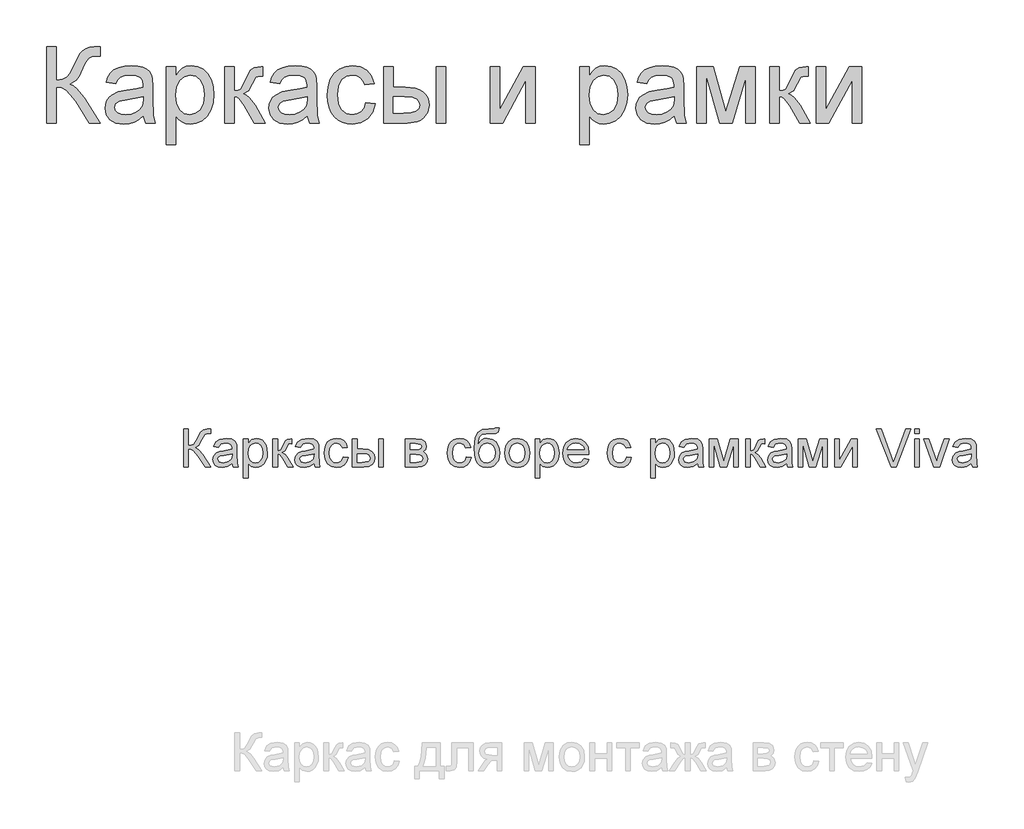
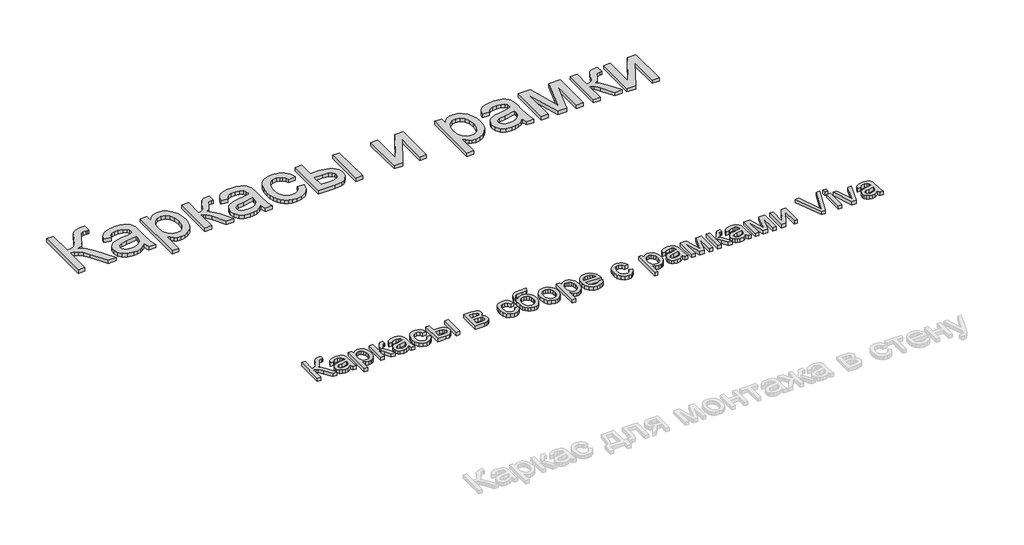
# One storey, part 47 of 48: 2 proxies.
"""IFC4 building model written with IfcOpenShell, lengths in millimetres."""

import ifcopenshell
import ifcopenshell.guid

model = None  # the IFC model being written
_history = None  # IfcOwnerHistory: only IFC2X3 demands one
_inside = {}  # id of a spatial element -> (the spatial element, [elements in it])
_under = {}  # id of a project, library or spatial element -> (it, [spatial elements below it])
_declared = {}  # id of a project -> (the project, [libraries it declares])
_typed = {}  # id of a type object -> (the type object, [elements of that type])
_made_of = {}  # id of a material, layer set ... -> (it, [elements and type objects made of it])


def new_model(schema):
    """Start an empty IFC model of exactly this schema.

    Asked for "IFC4X3", IfcOpenShell would pick the latest addendum, in which some entities
    have other attributes; the version numbers below select the first issue.
    IFC2X3 requires an IfcOwnerHistory on every rooted entity: one is made here for all.
    """
    global model, _history
    if schema == "IFC4X3":
        model = ifcopenshell.file(schema_version=(4, 3, 0, 0))
    else:
        model = ifcopenshell.file(schema=schema)
    _inside.clear()
    _under.clear()
    _declared.clear()
    _typed.clear()
    _made_of.clear()
    _history = None
    if model.schema == "IFC2X3":
        org = make("IfcOrganization", Name="unknown")
        user = make(
            "IfcPersonAndOrganization",
            ThePerson=make("IfcPerson", FamilyName="unknown"),
            TheOrganization=org,
        )
        app = make(
            "IfcApplication",
            ApplicationDeveloper=org,
            Version="unknown",
            ApplicationFullName="unknown",
            ApplicationIdentifier="unknown",
        )
        _history = make(
            "IfcOwnerHistory",
            OwningUser=user,
            OwningApplication=app,
            ChangeAction="ADDED",
            CreationDate=0,
        )
    return model


def make(cls, **values):
    """One entity of the class cls with the attributes given. An attribute that is None is left unset."""
    return model.create_entity(
        cls, **{name: value for name, value in values.items() if value is not None}
    )


def rooted(cls, **values):
    """An entity with a GlobalId (a new one), such as an element, a storey or a relation."""
    return make(cls, GlobalId=ifcopenshell.guid.new(), OwnerHistory=_history, **values)


def si_unit(unit_type, name, prefix=None):
    """IfcSIUnit, for example si_unit("LENGTHUNIT", "METRE", prefix="MILLI")."""
    return make("IfcSIUnit", UnitType=unit_type, Prefix=prefix, Name=name)


def assignment(units):
    """IfcUnitAssignment: the units of a project."""
    return None if units is None else make("IfcUnitAssignment", Units=units)


def point(xyz):
    """IfcCartesianPoint."""
    return None if xyz is None else make("IfcCartesianPoint", Coordinates=xyz)


def direction(xyz):
    """IfcDirection."""
    return None if xyz is None else make("IfcDirection", DirectionRatios=xyz)


def frame(location, z_axis=None, x_axis=None):
    """IfcAxis2Placement3D, a coordinate frame: its origin and axes. An axis left out is left unset."""
    return make(
        "IfcAxis2Placement3D",
        Location=point(location),
        Axis=direction(z_axis),
        RefDirection=direction(x_axis),
    )


def origin():
    """The frame at (0, 0, 0) with its axes left unset."""
    return frame((0.0, 0.0, 0.0))


def origin_with_axes():
    """The frame at (0, 0, 0) with the z axis (0, 0, 1) and the x axis (1, 0, 0) written out."""
    return frame((0.0, 0.0, 0.0), z_axis=(0.0, 0.0, 1.0), x_axis=(1.0, 0.0, 0.0))


def place(relative_to, where):
    """IfcLocalPlacement: puts the frame where relative to a parent placement (None: the world)."""
    return make(
        "IfcLocalPlacement", PlacementRelTo=relative_to, RelativePlacement=where
    )


def context(
    kind, dimensions, precision=None, world=None, true_north=None, identifier=None
):
    """IfcGeometricRepresentationContext, for example the 3D "Model" context."""
    return make(
        "IfcGeometricRepresentationContext",
        ContextIdentifier=identifier,
        ContextType=kind,
        CoordinateSpaceDimension=dimensions,
        Precision=precision,
        WorldCoordinateSystem=world,
        TrueNorth=true_north,
    )


def project(units=None, contexts=None):
    """IfcProject with its units and contexts."""
    return rooted(
        "IfcProject",
        Name="project",
        RepresentationContexts=contexts,
        UnitsInContext=assignment(units),
    )


def spatial(cls, under=None, at=None, **own):
    """A site, building, storey or space (cls), placed at a placement, below another one or the project."""
    s = rooted(cls, ObjectPlacement=at, **own)
    if under is not None:
        _under.setdefault(under.id(), (under, []))[1].append(s)
    return s


def polyline(points):
    """IfcPolyline through the points."""
    return make("IfcPolyline", Points=[point(p) for p in points])


def outline(outer, holes=None, kind="AREA"):
    """IfcArbitraryClosedProfileDef: a profile drawn as a closed curve; with holes, ...WithVoids."""
    if holes is None:
        return make("IfcArbitraryClosedProfileDef", ProfileType=kind, OuterCurve=outer)
    return make(
        "IfcArbitraryProfileDefWithVoids",
        ProfileType=kind,
        OuterCurve=outer,
        InnerCurves=holes,
    )


def extrude(swept, where, along, depth):
    """IfcExtrudedAreaSolid: the profile swept, set in the frame where, extruded along a direction by depth."""
    return make(
        "IfcExtrudedAreaSolid",
        SweptArea=swept,
        Position=where,
        ExtrudedDirection=direction(along),
        Depth=depth,
    )


def shape(context_of_items, identifier, shape_type, items):
    """IfcShapeRepresentation: the items that make up one representation, for example the "Body"."""
    return make(
        "IfcShapeRepresentation",
        ContextOfItems=context_of_items,
        RepresentationIdentifier=identifier,
        RepresentationType=shape_type,
        Items=items,
    )


def made_of(thing, what):
    """Note that an element or type object is made of a material, layer set ...; save() writes the relation."""
    if what is not None:
        _made_of.setdefault(what.id(), (what, []))[1].append(thing)
    return thing


def element(
    cls,
    number,
    at=None,
    inside=None,
    cuts=None,
    type_object=None,
    material=None,
    context=None,
    identifier="Body",
    shape_type=None,
    held_by="IfcProductDefinitionShape",
    body=None,
    shapes=None,
    **own,
):
    """One element of the class cls, such as IfcWall. Its Tag is "e" and its number.

    at: its placement. inside: the storey or other place that contains it. cuts: it is an
    opening in that element (IfcRelVoidsElement). A single representation is given by context,
    identifier, shape_type and body (its items); several are given by shapes. held_by: the class
    of the entity that holds the representations. save() writes the other relations.
    """
    e = rooted(cls, Tag="e%d" % number, ObjectPlacement=at, **own)
    if body is not None:
        shapes = [shape(context, identifier, shape_type, body)]
    if shapes is not None:
        e.Representation = make(held_by, Representations=shapes)
    if inside is not None:
        _inside.setdefault(inside.id(), (inside, []))[1].append(e)
    if cuts is not None:
        rooted(
            "IfcRelVoidsElement", RelatingBuildingElement=cuts, RelatedOpeningElement=e
        )
    if type_object is not None:
        _typed.setdefault(type_object.id(), (type_object, []))[1].append(e)
    return made_of(e, material)


def aggregate(whole, parts):
    """IfcRelAggregates: a whole, such as a stair, and the parts it consists of."""
    return rooted("IfcRelAggregates", RelatingObject=whole, RelatedObjects=parts)


def save(model, path):
    """Write the relations noted so far, then the file.

    IfcRelAggregates (storeys below a building ...), IfcRelContainedInSpatialStructure (elements
    in a storey), IfcRelDefinesByType, IfcRelAssociatesMaterial and IfcRelDeclares: one each for
    every whole, place, type object, material and project.
    """
    for whole, parts in _under.values():
        aggregate(whole, parts)
    for where, things in _inside.values():
        rooted(
            "IfcRelContainedInSpatialStructure",
            RelatedElements=things,
            RelatingStructure=where,
        )
    for kind, things in _typed.values():
        rooted("IfcRelDefinesByType", RelatedObjects=things, RelatingType=kind)
    for what, things in _made_of.values():
        rooted("IfcRelAssociatesMaterial", RelatedObjects=things, RelatingMaterial=what)
    for by, libraries in _declared.values():
        rooted("IfcRelDeclares", RelatingContext=by, RelatedDefinitions=libraries)
    model.write(path)


model = new_model("IFC4")

# Units and contexts
model_context = context("Model", 3, world=origin())
ifc_project = project(units=[si_unit("LENGTHUNIT", "METRE", prefix="MILLI")], contexts=[model_context])

# Site, building, storey
site = spatial("IfcSite", under=ifc_project)
building = spatial("IfcBuilding", under=site)
storey = spatial("IfcBuildingStorey", under=building, Name="Этаж 01", Elevation=0.0)

# Proxies
placement = place(None, origin())
element("IfcBuildingElementProxy", 1, Name="150 мм Arial", ObjectType="150 мм Arial", at=placement, inside=storey, context=model_context, shape_type="SweptSolid", body=[
    extrude(outline(polyline([(71432.8605868, 4004.3421474), (71451.6961449, 4004.3421474), (71451.6961449, 3938.4176939), (71464.4478546, 3939.6638941), (71472.7573892, 3943.4024949), (71487.4542749, 3968.6208057), (71497.8469412, 3989.6820499), (71509.6191651, 4000.1115045), (71526.4497663, 4004.3421474), (71538.8106014, 4004.1214182), (71538.8106014, 3985.2858601), (71534.6535348, 3985.3962247), (71530.4964683, 3985.5065892), (71515.7811885, 3980.9816407), (71504.5975758, 3961.5942596), (71491.2618535, 3937.9762355), (71478.257225, 3930.1771372), (71492.7977608, 3921.660669), (71507.1359616, 3903.9103627), (71538.8106014, 3853.6576822), (71516.9584109, 3853.6576822), (71490.1766016, 3896.1112644), (71471.3226494, 3918.2761546), (71462.6176417, 3922.7873076), (71451.6961449, 3924.2910253), (71451.6961449, 3853.6576822), (71432.8605868, 3853.6576822), (71432.8605868, 4004.3421474)])), origin_with_axes(), (0.0, 0.0, 1.0), 20.0),
    extrude(outline(polyline([(71623.5706131, 3867.7843508), (71605.305272, 3855.0188456), (71585.1269446, 3851.3032374), (71569.3861937, 3853.5381205), (71557.7749182, 3860.2427699), (71550.6150149, 3870.4239041), (71548.2283805, 3883.0882418), (71551.833624, 3897.9874626), (71561.3065854, 3908.8031933), (71574.4951549, 3914.9836108), (71590.7923273, 3917.8163021), (71623.4602485, 3924.2910253), (71623.5706131, 3928.48488), (71622.273829, 3936.8909836), (71618.3834769, 3942.3908194), (71609.6830678, 3946.4743096), (71597.561356, 3947.8354729), (71578.5050687, 3944.2118353), (71569.4183834, 3931.3543596), (71550.5828252, 3933.7088043), (71558.7314114, 3952.1029041), (71575.1389484, 3962.8818465), (71599.9893772, 3966.6710311), (71622.816455, 3963.3233049), (71635.7107189, 3954.9172014), (71641.4864662, 3942.133302), (71642.4061712, 3925.6521886), (71642.4061712, 3902.2181055), (71643.3626644, 3869.4950021), (71647.1150608, 3853.6576822), (71628.2795026, 3853.6576822), (71623.5706131, 3867.7843508)]), holes=[polyline([(71623.5706131, 3905.4554671), (71593.1835603, 3899.6797198), (71576.9783584, 3896.6262992), (71569.6391126, 3891.6598923), (71567.0639386, 3884.412617), (71572.674139, 3874.2222857), (71589.1368583, 3870.1387956), (71608.1931457, 3874.64535), (71620.4804043, 3885.5530512), (71623.4602485, 3900.1211782), (71623.5706131, 3905.4554671)])]), origin_with_axes(), (0.0, 0.0, 1.0), 20.0),
    extrude(outline(polyline([(71668.3050637, 3811.2776763), (71668.3050637, 3964.3165863), (71687.1406218, 3964.3165863), (71687.1406218, 3945.8489102), (71700.1636445, 3961.4655009), (71717.7484038, 3966.6710311), (71730.4863179, 3964.8500152), (71741.6239453, 3959.3869676), (71750.6922365, 3950.612982), (71757.2221419, 3938.8591523), (71762.4828545, 3909.8332628), (71760.9975309, 3893.72463), (71756.5415602, 3879.3174513), (71749.2574967, 3867.3428924), (71739.2878947, 3858.5321186), (71727.6766192, 3853.1104577), (71715.4675355, 3851.3032374), (71699.0783926, 3856.1408856), (71687.1406218, 3868.372962), (71687.1406218, 3811.2776763), (71668.3050637, 3811.2776763)]), holes=[polyline([(71687.1406218, 3908.1042175), (71689.1777684, 3891.2184339), (71695.289208, 3879.4094218), (71704.3069154, 3872.4564521), (71715.0628653, 3870.1387956), (71725.9935591, 3872.5392256), (71735.2411927, 3879.7405156), (71741.5457704, 3891.981789), (71743.6472963, 3909.502169), (71741.5963542, 3926.2959821), (71735.4435278, 3938.2705411), (71726.439616, 3945.44424), (71715.8354175, 3947.8354729), (71705.1898322, 3945.2924887), (71695.841031, 3937.6635358), (71689.3157241, 3925.1877376), (71687.1406218, 3908.1042175)])]), origin_with_axes(), (0.0, 0.0, 1.0), 20.0),
    extrude(outline(polyline([(71783.6728574, 3964.3165863), (71802.5084155, 3964.3165863), (71802.5084155, 3917.2276909), (71815.126768, 3920.6122053), (71825.464252, 3940.3306802), (71834.0542966, 3957.3452225), (71841.6326657, 3962.8818465), (71855.4098464, 3964.3165863), (71859.01509, 3964.3165863), (71859.01509, 3945.3706636), (71853.9383185, 3945.4810282), (71844.7412686, 3943.4944654), (71838.2665455, 3931.0968422), (71830.6697823, 3917.6875434), (71820.0195985, 3911.1208498), (71831.9021869, 3903.7908011), (71843.5640462, 3888.3489543), (71863.7239795, 3853.6576822), (71842.3132474, 3853.6576822), (71822.5579843, 3887.6131903), (71812.6251704, 3901.9789822), (71802.5084155, 3905.4554671), (71802.5084155, 3853.6576822), (71783.6728574, 3853.6576822), (71783.6728574, 3964.3165863)])), origin_with_axes(), (0.0, 0.0, 1.0), 20.0),
    extrude(outline(polyline([(71946.1295464, 3867.7843508), (71927.8642054, 3855.0188456), (71907.6858779, 3851.3032374), (71891.9451271, 3853.5381205), (71880.3338516, 3860.2427699), (71873.1739483, 3870.4239041), (71870.7873138, 3883.0882418), (71874.3925574, 3897.9874626), (71883.8655188, 3908.8031933), (71897.0540883, 3914.9836108), (71913.3512607, 3917.8163021), (71946.0191818, 3924.2910253), (71946.1295464, 3928.48488), (71944.8327624, 3936.8909836), (71940.9424103, 3942.3908194), (71932.2420011, 3946.4743096), (71920.1202894, 3947.8354729), (71901.064002, 3944.2118353), (71891.9773168, 3931.3543596), (71873.1417586, 3933.7088043), (71881.2903448, 3952.1029041), (71897.6978818, 3962.8818465), (71922.5483106, 3966.6710311), (71945.3753884, 3963.3233049), (71958.2696523, 3954.9172014), (71964.0453996, 3942.133302), (71964.9651046, 3925.6521886), (71964.9651046, 3902.2181055), (71965.9215978, 3869.4950021), (71969.6739941, 3853.6576822), (71950.838436, 3853.6576822), (71946.1295464, 3867.7843508)]), holes=[polyline([(71946.1295464, 3905.4554671), (71915.7424936, 3899.6797198), (71899.5372918, 3896.6262992), (71892.198046, 3891.6598923), (71889.622872, 3884.412617), (71895.2330724, 3874.2222857), (71911.6957917, 3870.1387956), (71930.752079, 3874.64535), (71943.0393377, 3885.5530512), (71946.0191818, 3900.1211782), (71946.1295464, 3905.4554671)])]), origin_with_axes(), (0.0, 0.0, 1.0), 20.0),
    extrude(outline(polyline([(72061.4973401, 3893.6832433), (72080.3328983, 3891.3287985), (72075.0813828, 3874.5763721), (72065.2129483, 3861.916633), (72051.6564968, 3853.9565863), (72035.3409303, 3851.3032374), (72015.3051571, 3855.00505), (71999.6379826, 3866.1104877), (71989.5258263, 3884.132107), (71986.1551075, 3908.5824641), (71987.5944458, 3925.3440875), (71991.9124607, 3939.8708277), (71999.1781301, 3951.6016649), (72009.4604319, 3959.9755788), (72021.7614861, 3964.997168), (72035.0834129, 3966.6710311), (72050.9989077, 3964.3717686), (72063.7230262, 3957.4739812), (72072.8510982, 3946.3455509), (72077.9784535, 3931.3543596), (72059.1428954, 3928.9999148), (72050.405698, 3943.1081893), (72035.2305657, 3947.8354729), (72023.0582702, 3945.5086193), (72013.3967693, 3938.5280585), (72007.0921916, 3926.5167113), (72004.9906657, 3909.0974989), (72007.0462063, 3891.4437616), (72013.2128283, 3879.3910277), (72022.6995852, 3872.4518536), (72034.7155309, 3870.1387956), (72044.4690023, 3871.5827324), (72052.4658372, 3875.9145429), (72058.2829712, 3883.2445916), (72061.4973401, 3893.6832433)])), origin_with_axes(), (0.0, 0.0, 1.0), 20.0),
    extrude(outline(polyline([(72096.8140117, 3964.3165863), (72115.6495698, 3964.3165863), (72115.6495698, 3924.2910253), (72138.9365001, 3924.2910253), (72159.0642438, 3921.931982), (72173.9772602, 3914.8548521), (72183.2064997, 3903.6298527), (72186.2829129, 3888.8272009), (72183.7031404, 3875.3489243), (72175.9638229, 3863.9767721), (72162.5591227, 3856.2374547), (72142.9832021, 3853.6576822), (72096.8140117, 3853.6576822), (72096.8140117, 3964.3165863)]), holes=[polyline([(72115.6495698, 3872.4932403), (72135.0001628, 3872.4932403), (72159.9793502, 3876.4479718), (72165.5803536, 3881.5109477), (72167.4473547, 3888.7904127), (72161.9107307, 3900.3786956), (72153.0309791, 3904.1862742), (72137.4649721, 3905.4554671), (72115.6495698, 3905.4554671), (72115.6495698, 3872.4932403)])]), origin_with_axes(), (0.0, 0.0, 1.0), 20.0),
    extrude(outline(polyline([(72200.4095815, 3964.3165863), (72219.2451397, 3964.3165863), (72219.2451397, 3853.6576822), (72200.4095815, 3853.6576822), (72200.4095815, 3964.3165863)])), origin_with_axes(), (0.0, 0.0, 1.0), 20.0),
    extrude(outline(polyline([(72306.3595961, 3964.3165863), (72347.8566852, 3964.3165863), (72370.6101866, 3961.7965947), (72383.41248, 3952.5627566), (72388.765163, 3936.4679193), (72385.5278015, 3923.3897144), (72375.7789286, 3914.0639058), (72388.4340692, 3903.8551804), (72393.4740526, 3886.1048742), (72390.2826763, 3871.7482793), (72382.6951101, 3861.6407215), (72370.683763, 3855.653442), (72354.2210437, 3853.6576822), (72306.3595961, 3853.6576822), (72306.3595961, 3964.3165863)]), holes=[polyline([(72325.1951543, 3872.4932403), (72348.2981436, 3872.4932403), (72368.7891707, 3875.8961488), (72373.0290107, 3880.5360605), (72374.6384944, 3887.6499785), (72371.419527, 3896.7182697), (72363.0318175, 3901.9973763), (72346.4587336, 3903.1010223), (72325.1951543, 3903.1010223), (72325.1951543, 3872.4932403)]), polyline([(72325.1951543, 3921.9365805), (72343.8099832, 3921.9365805), (72359.1690565, 3922.8930737), (72366.637061, 3926.7190464), (72369.9296049, 3933.6352279), (72368.4856681, 3939.2546254), (72364.1538576, 3942.869066), (72344.3985944, 3945.4810282), (72325.1951543, 3945.4810282), (72325.1951543, 3921.9365805)])]), origin_with_axes(), (0.0, 0.0, 1.0), 20.0),
    extrude(outline(polyline([(72546.5129626, 3893.6832433), (72565.3485207, 3891.3287985), (72560.0970052, 3874.5763721), (72550.2285707, 3861.916633), (72536.6721192, 3853.9565863), (72520.3565527, 3851.3032374), (72500.3207796, 3855.00505), (72484.6536051, 3866.1104877), (72474.5414487, 3884.132107), (72471.17073, 3908.5824641), (72472.6100683, 3925.3440875), (72476.9280832, 3939.8708277), (72484.1937526, 3951.6016649), (72494.4760544, 3959.9755788), (72506.7771086, 3964.997168), (72520.0990353, 3966.6710311), (72536.0145301, 3964.3717686), (72548.7386486, 3957.4739812), (72557.8667206, 3946.3455509), (72562.994076, 3931.3543596), (72544.1585178, 3928.9999148), (72535.4213204, 3943.1081893), (72520.2461881, 3947.8354729), (72508.0738926, 3945.5086193), (72498.4123917, 3938.5280585), (72492.107814, 3926.5167113), (72490.0062881, 3909.0974989), (72492.0618288, 3891.4437616), (72498.2284507, 3879.3910277), (72507.7152077, 3872.4518536), (72519.7311533, 3870.1387956), (72529.4846247, 3871.5827324), (72537.4814596, 3875.9145429), (72543.2985936, 3883.2445916), (72546.5129626, 3893.6832433)])), origin_with_axes(), (0.0, 0.0, 1.0), 20.0),
    extrude(outline(polyline([(72659.5263115, 4006.6965922), (72676.0074249, 4006.6965922), (72671.1513825, 3991.9997065), (72661.5496625, 3986.6838116), (72638.4834614, 3985.5065892), (72607.4158269, 3981.1655817), (72600.2881132, 3975.5185931), (72595.4964502, 3967.2596423), (72591.4681424, 3942.6483368), (72607.7837089, 3960.6745546), (72617.7027272, 3965.171912), (72628.8081649, 3966.6710311), (72648.4070782, 3962.8588539), (72664.3087774, 3951.4223224), (72674.8485966, 3933.4834766), (72678.3618696, 3910.1643566), (72676.6190287, 3892.1841241), (72671.3905058, 3877.7539529), (72654.8542102, 3858.2010248), (72643.5602329, 3853.0276843), (72628.8081649, 3851.3032374), (72611.8074182, 3853.524325), (72599.0649056, 3860.1875876), (72589.6885132, 3870.3135395), (72582.7861273, 3882.9226949), (72578.5370903, 3901.9100044), (72577.1207446, 3931.1704186), (72580.6937985, 3967.3102261), (72591.4129601, 3989.3509561), (72609.5449439, 4000.5943496), (72635.3564644, 4004.3421474), (72656.3257381, 4004.7652117), (72659.5263115, 4006.6965922)]), holes=[polyline([(72659.5263115, 3910.7529678), (72657.4845664, 3925.5740137), (72651.3593312, 3937.4428066), (72641.5184878, 3945.2373064), (72628.3299183, 3947.8354729), (72614.5803287, 3945.0901536), (72604.3808004, 3936.8541954), (72598.0624271, 3924.0289093), (72595.9563027, 3907.5156063), (72598.2831563, 3891.508141), (72605.2637172, 3879.7589097), (72615.6563836, 3872.5438241), (72628.2195537, 3870.1387956), (72640.8471032, 3872.9209032), (72650.8442964, 3881.2672259), (72657.3558077, 3894.2028766), (72659.5263115, 3910.7529678)])]), origin_with_axes(), (0.0, 0.0, 1.0), 20.0),
    extrude(outline(polyline([(72697.1974278, 3908.9871343), (72701.2717209, 3935.667776), (72713.4946002, 3954.4205607), (72728.5961561, 3963.6084135), (72746.6775561, 3966.6710311), (72766.465009, 3962.9416274), (72782.2701392, 3951.7534162), (72792.6306159, 3933.9893143), (72796.0841081, 3910.5322386), (72794.5573978, 3891.5035424), (72789.977267, 3877.0181889), (72782.4770728, 3866.1702685), (72772.1901725, 3858.053872), (72759.9718917, 3852.9908961), (72746.6775561, 3851.3032374), (72726.65098, 3855.0188456), (72710.8642439, 3866.16567), (72700.6141318, 3884.3022524), (72697.1974278, 3908.9871343)]), holes=[polyline([(72716.032986, 3909.0239225), (72718.2126868, 3891.9771905), (72724.7517892, 3879.8324861), (72734.5926326, 3872.5622182), (72746.6775561, 3870.1387956), (72758.7072974, 3872.5760138), (72768.5297467, 3879.8876684), (72775.0688491, 3892.1933212), (72777.2485499, 3909.6125336), (72775.0550536, 3926.1626249), (72768.4745644, 3938.1417824), (72758.6383195, 3945.4120503), (72746.6775561, 3947.8354729), (72734.5926326, 3945.4212473), (72724.7517892, 3938.1785706), (72718.2126868, 3926.0614574), (72716.032986, 3909.0239225)])]), origin_with_axes(), (0.0, 0.0, 1.0), 20.0),
    extrude(outline(polyline([(72817.274111, 3811.2776763), (72817.274111, 3964.3165863), (72836.1096692, 3964.3165863), (72836.1096692, 3945.8489102), (72849.1326918, 3961.4655009), (72866.7174512, 3966.6710311), (72879.4553653, 3964.8500152), (72890.5929927, 3959.3869676), (72899.6612838, 3950.612982), (72906.1911893, 3938.8591523), (72911.4519018, 3909.8332628), (72909.9665782, 3893.72463), (72905.5106076, 3879.3174513), (72898.2265441, 3867.3428924), (72888.256942, 3858.5321186), (72876.6456665, 3853.1104577), (72864.4365828, 3851.3032374), (72848.0474399, 3856.1408856), (72836.1096692, 3868.372962), (72836.1096692, 3811.2776763), (72817.274111, 3811.2776763)]), holes=[polyline([(72836.1096692, 3908.1042175), (72838.1468157, 3891.2184339), (72844.2582554, 3879.4094218), (72853.2759628, 3872.4564521), (72864.0319126, 3870.1387956), (72874.9626064, 3872.5392256), (72884.21024, 3879.7405156), (72890.5148177, 3891.981789), (72892.6163436, 3909.502169), (72890.5654015, 3926.2959821), (72884.4125751, 3938.2705411), (72875.4086633, 3945.44424), (72864.8044648, 3947.8354729), (72854.1588796, 3945.2924887), (72844.8100784, 3937.6635358), (72838.2847715, 3925.1877376), (72836.1096692, 3908.1042175)])]), origin_with_axes(), (0.0, 0.0, 1.0), 20.0),
    extrude(outline(polyline([(73010.1178529, 3886.6199089), (73028.5855291, 3884.2654642), (73021.9314635, 3870.3503277), (73011.3134694, 3859.9484643), (72996.9706701, 3853.4645441), (72979.1421889, 3851.3032374), (72957.041678, 3855.0326411), (72940.0363328, 3866.2208523), (72929.193011, 3884.141304), (72925.5785704, 3908.0674293), (72929.2297992, 3932.7982964), (72940.1834856, 3951.2935637), (72956.9589046, 3962.8266642), (72978.0753311, 3966.6710311), (72998.5341686, 3962.8358613), (73014.8819247, 3951.3303519), (73025.6010864, 3932.8718728), (73029.1741402, 3908.1777939), (73029.0637756, 3903.1010223), (72944.4141286, 3903.1010223), (72947.6744827, 3889.0019449), (72955.2482533, 3878.6368697), (72966.1789471, 3872.2633141), (72979.5100709, 3870.1387956), (72997.9777471, 3874.0751329), (73010.1178529, 3886.6199089)]), holes=[polyline([(72944.4141286, 3921.9365805), (73010.3385821, 3921.9365805), (73007.7909993, 3931.8877885), (73002.7970012, 3939.0063051), (72991.8157236, 3945.628181), (72978.0017547, 3947.8354729), (72965.3052274, 3946.0742379), (72954.8067949, 3940.7905327), (72947.5089358, 3932.5545746), (72944.4141286, 3921.9365805)])]), origin_with_axes(), (0.0, 0.0, 1.0), 20.0),
    extrude(outline(polyline([(73177.5041607, 3893.6832433), (73196.3397189, 3891.3287985), (73191.0882034, 3874.5763721), (73181.2197689, 3861.916633), (73167.6633173, 3853.9565863), (73151.3477508, 3851.3032374), (73131.3119777, 3855.00505), (73115.6448032, 3866.1104877), (73105.5326469, 3884.132107), (73102.1619281, 3908.5824641), (73103.6012664, 3925.3440875), (73107.9192813, 3939.8708277), (73115.1849507, 3951.6016649), (73125.4672525, 3959.9755788), (73137.7683067, 3964.997168), (73151.0902334, 3966.6710311), (73167.0057283, 3964.3717686), (73179.7298468, 3957.4739812), (73188.8579188, 3946.3455509), (73193.9852741, 3931.3543596), (73175.1497159, 3928.9999148), (73166.4125185, 3943.1081893), (73151.2373862, 3947.8354729), (73139.0650907, 3945.5086193), (73129.4035898, 3938.5280585), (73123.0990121, 3926.5167113), (73120.9974862, 3909.0974989), (73123.0530269, 3891.4437616), (73129.2196488, 3879.3910277), (73138.7064058, 3872.4518536), (73150.7223515, 3870.1387956), (73160.4758228, 3871.5827324), (73168.4726577, 3875.9145429), (73174.2897918, 3883.2445916), (73177.5041607, 3893.6832433)])), origin_with_axes(), (0.0, 0.0, 1.0), 20.0),
    extrude(outline(polyline([(73271.6819515, 3811.2776763), (73271.6819515, 3964.3165863), (73290.5175096, 3964.3165863), (73290.5175096, 3945.8489102), (73303.5405322, 3961.4655009), (73321.1252916, 3966.6710311), (73333.8632057, 3964.8500152), (73345.0008331, 3959.3869676), (73354.0691243, 3950.612982), (73360.5990297, 3938.8591523), (73365.8597422, 3909.8332628), (73364.3744187, 3893.72463), (73359.918448, 3879.3174513), (73352.6343845, 3867.3428924), (73342.6647824, 3858.5321186), (73331.053507, 3853.1104577), (73318.8444232, 3851.3032374), (73302.4552804, 3856.1408856), (73290.5175096, 3868.372962), (73290.5175096, 3811.2776763), (73271.6819515, 3811.2776763)]), holes=[polyline([(73290.5175096, 3908.1042175), (73292.5546562, 3891.2184339), (73298.6660958, 3879.4094218), (73307.6838032, 3872.4564521), (73318.4397531, 3870.1387956), (73329.3704468, 3872.5392256), (73338.6180805, 3879.7405156), (73344.9226582, 3891.981789), (73347.0241841, 3909.502169), (73344.973242, 3926.2959821), (73338.8204156, 3938.2705411), (73329.8165038, 3945.44424), (73319.2123052, 3947.8354729), (73308.56672, 3945.2924887), (73299.2179188, 3937.6635358), (73292.6926119, 3925.1877376), (73290.5175096, 3908.1042175)])]), origin_with_axes(), (0.0, 0.0, 1.0), 20.0),
    extrude(outline(polyline([(73457.6830882, 3867.7843508), (73439.4177472, 3855.0188456), (73419.2394197, 3851.3032374), (73403.4986689, 3853.5381205), (73391.8873934, 3860.2427699), (73384.7274901, 3870.4239041), (73382.3408556, 3883.0882418), (73385.9460992, 3897.9874626), (73395.4190605, 3908.8031933), (73408.6076301, 3914.9836108), (73424.9048025, 3917.8163021), (73457.5727236, 3924.2910253), (73457.6830882, 3928.48488), (73456.3863042, 3936.8909836), (73452.4959521, 3942.3908194), (73443.7955429, 3946.4743096), (73431.6738312, 3947.8354729), (73412.6175438, 3944.2118353), (73403.5308585, 3931.3543596), (73384.6953004, 3933.7088043), (73392.8438866, 3952.1029041), (73409.2514236, 3962.8818465), (73434.1018523, 3966.6710311), (73456.9289301, 3963.3233049), (73469.8231941, 3954.9172014), (73475.5989414, 3942.133302), (73476.5186464, 3925.6521886), (73476.5186464, 3902.2181055), (73477.4751396, 3869.4950021), (73481.2275359, 3853.6576822), (73462.3919778, 3853.6576822), (73457.6830882, 3867.7843508)]), holes=[polyline([(73457.6830882, 3905.4554671), (73427.2960354, 3899.6797198), (73411.0908335, 3896.6262992), (73403.7515877, 3891.6598923), (73401.1764138, 3884.412617), (73406.7866142, 3874.2222857), (73423.2493335, 3870.1387956), (73442.3056208, 3874.64535), (73454.5928795, 3885.5530512), (73457.5727236, 3900.1211782), (73457.6830882, 3905.4554671)])]), origin_with_axes(), (0.0, 0.0, 1.0), 20.0),
    extrude(outline(polyline([(73502.4175388, 3964.3165863), (73534.8279426, 3964.3165863), (73559.8071301, 3875.7306019), (73586.7360921, 3964.3165863), (73617.7853325, 3964.3165863), (73617.7853325, 3853.6576822), (73598.9497744, 3853.6576822), (73598.9497744, 3942.7587014), (73571.8736595, 3853.6576822), (73547.1519895, 3853.6576822), (73521.253097, 3947.0261326), (73521.253097, 3853.6576822), (73502.4175388, 3853.6576822), (73502.4175388, 3964.3165863)])), origin_with_axes(), (0.0, 0.0, 1.0), 20.0),
    extrude(outline(polyline([(73646.0386698, 3964.3165863), (73664.8742279, 3964.3165863), (73664.8742279, 3917.2276909), (73677.4925803, 3920.6122053), (73687.8300644, 3940.3306802), (73696.420109, 3957.3452225), (73703.9984781, 3962.8818465), (73717.7756588, 3964.3165863), (73721.3809024, 3964.3165863), (73721.3809024, 3945.3706636), (73716.3041308, 3945.4810282), (73707.107081, 3943.4944654), (73700.6323578, 3931.0968422), (73693.0355946, 3917.6875434), (73682.3854109, 3911.1208498), (73694.2679993, 3903.7908011), (73705.9298586, 3888.3489543), (73726.0897919, 3853.6576822), (73704.6790598, 3853.6576822), (73684.9237966, 3887.6131903), (73674.9909828, 3901.9789822), (73664.8742279, 3905.4554671), (73664.8742279, 3853.6576822), (73646.0386698, 3853.6576822), (73646.0386698, 3964.3165863)])), origin_with_axes(), (0.0, 0.0, 1.0), 20.0),
    extrude(outline(polyline([(73808.4953588, 3867.7843508), (73790.2300178, 3855.0188456), (73770.0516903, 3851.3032374), (73754.3109395, 3853.5381205), (73742.699664, 3860.2427699), (73735.5397607, 3870.4239041), (73733.1531262, 3883.0882418), (73736.7583698, 3897.9874626), (73746.2313311, 3908.8031933), (73759.4199007, 3914.9836108), (73775.7170731, 3917.8163021), (73808.3849942, 3924.2910253), (73808.4953588, 3928.48488), (73807.1985748, 3936.8909836), (73803.3082227, 3942.3908194), (73794.6078135, 3946.4743096), (73782.4861018, 3947.8354729), (73763.4298144, 3944.2118353), (73754.3431291, 3931.3543596), (73735.507571, 3933.7088043), (73743.6561572, 3952.1029041), (73760.0636942, 3962.8818465), (73784.9141229, 3966.6710311), (73807.7412007, 3963.3233049), (73820.6354647, 3954.9172014), (73826.411212, 3942.133302), (73827.330917, 3925.6521886), (73827.330917, 3902.2181055), (73828.2874102, 3869.4950021), (73832.0398065, 3853.6576822), (73813.2042484, 3853.6576822), (73808.4953588, 3867.7843508)]), holes=[polyline([(73808.4953588, 3905.4554671), (73778.108306, 3899.6797198), (73761.9031041, 3896.6262992), (73754.5638583, 3891.6598923), (73751.9886844, 3884.412617), (73757.5988848, 3874.2222857), (73774.0616041, 3870.1387956), (73793.1178914, 3874.64535), (73805.4051501, 3885.5530512), (73808.3849942, 3900.1211782), (73808.4953588, 3905.4554671)])]), origin_with_axes(), (0.0, 0.0, 1.0), 20.0),
    extrude(outline(polyline([(73853.2298094, 3964.3165863), (73885.6402132, 3964.3165863), (73910.6194007, 3875.7306019), (73937.5483627, 3964.3165863), (73968.5976031, 3964.3165863), (73968.5976031, 3853.6576822), (73949.762045, 3853.6576822), (73949.762045, 3942.7587014), (73922.6859301, 3853.6576822), (73897.9642601, 3853.6576822), (73872.0653676, 3947.0261326), (73872.0653676, 3853.6576822), (73853.2298094, 3853.6576822), (73853.2298094, 3964.3165863)])), origin_with_axes(), (0.0, 0.0, 1.0), 20.0),
    extrude(outline(polyline([(73996.8509404, 3964.3165863), (74015.6864985, 3964.3165863), (74015.6864985, 3879.9244566), (74061.9660535, 3964.3165863), (74086.3198416, 3964.3165863), (74086.3198416, 3853.6576822), (74067.4842834, 3853.6576822), (74067.4842834, 3937.5347771), (74021.499034, 3853.6576822), (73996.8509404, 3853.6576822), (73996.8509404, 3964.3165863)])), origin_with_axes(), (0.0, 0.0, 1.0), 20.0),
    extrude(outline(polyline([(74220.3024642, 3853.6576822), (74160.337699, 4004.3421474), (74180.4976324, 4004.3421474), (74220.633558, 3895.7801706), (74228.7637501, 3871.3160179), (74236.7835776, 3895.7801706), (74277.0298679, 4004.3421474), (74297.1898012, 4004.3421474), (74239.7634218, 3853.6576822), (74220.3024642, 3853.6576822)])), origin_with_axes(), (0.0, 0.0, 1.0), 20.0),
    extrude(outline(polyline([(74312.3465394, 3985.5065892), (74312.3465394, 4004.3421474), (74331.1820976, 4004.3421474), (74331.1820976, 3985.5065892), (74312.3465394, 3985.5065892)])), origin_with_axes(), (0.0, 0.0, 1.0), 20.0),
    extrude(outline(polyline([(74312.3465394, 3853.6576822), (74312.3465394, 3964.3165863), (74331.1820976, 3964.3165863), (74331.1820976, 3853.6576822), (74312.3465394, 3853.6576822)])), origin_with_axes(), (0.0, 0.0, 1.0), 20.0),
    extrude(outline(polyline([(74386.585126, 3853.6576822), (74347.663211, 3964.3165863), (74367.6024151, 3964.3165863), (74391.183651, 3898.0242508), (74398.2837735, 3875.7306019), (74405.2367432, 3896.773452), (74428.9651319, 3964.3165863), (74448.904336, 3964.3165863), (74410.4606675, 3853.6576822), (74386.585126, 3853.6576822)])), origin_with_axes(), (0.0, 0.0, 1.0), 20.0),
    extrude(outline(polyline([(74536.0187925, 3867.7843508), (74517.7534514, 3855.0188456), (74497.575124, 3851.3032374), (74481.8343731, 3853.5381205), (74470.2230977, 3860.2427699), (74463.0631943, 3870.4239041), (74460.6765599, 3883.0882418), (74464.2818034, 3897.9874626), (74473.7547648, 3908.8031933), (74486.9433343, 3914.9836108), (74503.2405067, 3917.8163021), (74535.9084279, 3924.2910253), (74536.0187925, 3928.48488), (74534.7220085, 3936.8909836), (74530.8316564, 3942.3908194), (74522.1312472, 3946.4743096), (74510.0095354, 3947.8354729), (74490.9532481, 3944.2118353), (74481.8665628, 3931.3543596), (74463.0310046, 3933.7088043), (74471.1795908, 3952.1029041), (74487.5871278, 3962.8818465), (74512.4375566, 3966.6710311), (74535.2646344, 3963.3233049), (74548.1588983, 3954.9172014), (74553.9346457, 3942.133302), (74554.8543506, 3925.6521886), (74554.8543506, 3902.2181055), (74555.8108438, 3869.4950021), (74559.5632402, 3853.6576822), (74540.727682, 3853.6576822), (74536.0187925, 3867.7843508)]), holes=[polyline([(74536.0187925, 3905.4554671), (74505.6317397, 3899.6797198), (74489.4265378, 3896.6262992), (74482.087292, 3891.6598923), (74479.512118, 3884.412617), (74485.1223185, 3874.2222857), (74501.5850377, 3870.1387956), (74520.6413251, 3874.64535), (74532.9285837, 3885.5530512), (74535.9084279, 3900.1211782), (74536.0187925, 3905.4554671)])]), origin_with_axes(), (0.0, 0.0, 1.0), 20.0),
])
element("IfcBuildingElementProxy", 2, Name="300 мм Arial", ObjectType="300 мм Arial", at=placement, inside=storey, context=model_context, shape_type="SweptSolid", body=[
    extrude(outline(polyline([(70892.590472, 5511.0592945), (70930.2615884, 5511.0592945), (70930.2615884, 5379.2103874), (70955.7650077, 5381.7027879), (70972.3840768, 5389.1799894), (70985.8209667, 5406.7739459), (71001.7778482, 5439.616611), (71022.5631809, 5481.7390994), (71032.5879653, 5493.1526383), (71046.1076286, 5502.5980086), (71062.1564807, 5508.943973), (71079.7688312, 5511.0592945), (71104.4905013, 5510.6178361), (71104.4905013, 5472.9467198), (71096.1763682, 5473.1674489), (71087.8622351, 5473.3881781), (71070.6085695, 5471.1257039), (71058.4316755, 5464.3382811), (71047.9470386, 5450.0828538), (71036.0644502, 5425.5635188), (71021.4871261, 5395.0293132), (71009.3930055, 5378.3274706), (70983.3837485, 5362.729274), (70997.9748681, 5356.5212653), (71012.4648202, 5345.6963376), (71041.1412217, 5310.1957251), (71104.4905013, 5209.690364), (71060.7861202, 5209.690364), (71007.2225017, 5294.5975285), (70986.5383366, 5321.8299932), (70969.5145972, 5338.9273089), (70952.1045818, 5347.9496148), (70930.2615884, 5350.9570502), (70930.2615884, 5209.690364), (70892.590472, 5209.690364), (70892.590472, 5511.0592945)])), origin_with_axes(), (0.0, 0.0, 1.0), 20.0),
    extrude(outline(polyline([(71274.0105246, 5237.9437012), (71256.011898, 5222.5110515), (71237.4798425, 5212.4126908), (71217.9912938, 5206.8392785), (71197.1231877, 5204.9814745), (71165.6416859, 5209.4512407), (71142.419135, 5222.8605394), (71128.0993283, 5243.2228079), (71123.3260594, 5268.5514832), (71125.1286812, 5284.1680739), (71130.5365465, 5298.3499248), (71138.8782708, 5310.4900307), (71149.4824693, 5319.9813862), (71175.8596083, 5332.3422212), (71208.4539531, 5338.0076039), (71246.971198, 5343.9672922), (71273.7897954, 5350.9570502), (71274.0105246, 5359.3447596), (71271.4169566, 5376.1569668), (71263.6362524, 5387.1566385), (71246.235434, 5395.3236188), (71221.9920105, 5398.0459455), (71199.5512088, 5396.2341267), (71183.8794358, 5390.7986702), (71173.1924639, 5380.7462947), (71165.7060653, 5365.0837188), (71128.034949, 5369.7926083), (71134.5740514, 5390.394), (71144.3321213, 5406.5808078), (71158.2196667, 5418.960037), (71177.1471953, 5428.1386927), (71200.2961699, 5433.8224696), (71226.8480529, 5435.7170618), (71252.314684, 5434.0431988), (71272.5022085, 5429.0216095), (71287.723326, 5421.4708316), (71298.2907363, 5412.2094023), (71305.2988883, 5400.7590752), (71309.842231, 5386.6416037), (71311.681641, 5353.6793769), (71311.681641, 5306.8112107), (71313.5946273, 5241.3650038), (71321.09942, 5209.690364), (71283.4283037, 5209.690364), (71274.0105246, 5237.9437012)]), holes=[polyline([(71274.0105246, 5313.2859338), (71213.236419, 5301.7344392), (71180.8260153, 5295.6275981), (71166.1475237, 5285.6947842), (71160.9971757, 5271.2002336), (71163.8022759, 5259.9982268), (71172.2175766, 5250.8195711), (71186.0591366, 5244.6943358), (71205.1430151, 5242.6525908), (71225.3765249, 5244.905868), (71243.2555898, 5251.6656997), (71257.7501405, 5261.6261047), (71267.8301071, 5273.481102), (71272.2998734, 5285.6947842), (71273.7897954, 5302.617356), (71274.0105246, 5313.2859338)])]), origin_with_axes(), (0.0, 0.0, 1.0), 20.0),
    extrude(outline(polyline([(71363.4794259, 5124.9303523), (71363.4794259, 5431.0081723), (71401.1505422, 5431.0081723), (71401.1505422, 5394.07282), (71413.4378008, 5412.2921758), (71427.1965874, 5425.3060014), (71443.2362424, 5433.1142967), (71462.3661062, 5435.7170618), (71487.8419343, 5432.0750301), (71510.1171892, 5421.1489348), (71528.2537715, 5403.6009637), (71541.3135823, 5380.0933042), (71549.2046511, 5352.3366076), (71551.8350074, 5322.0415253), (71548.8643603, 5289.8242596), (71539.952419, 5261.0099023), (71525.384292, 5237.0607844), (71505.4450878, 5219.4392369), (71482.2225369, 5208.5959151), (71457.8043694, 5204.9814745), (71440.4863245, 5207.4002986), (71425.0260837, 5214.6567709), (71411.7915289, 5225.6104573), (71401.1505422, 5239.1209236), (71401.1505422, 5124.9303523), (71363.4794259, 5124.9303523)]), holes=[polyline([(71401.1505422, 5318.5834346), (71405.2248353, 5284.8118674), (71417.4477146, 5261.1938433), (71435.4831294, 5247.2879039), (71456.995029, 5242.6525908), (71478.8564166, 5247.4534508), (71497.3516839, 5261.8560309), (71509.9608393, 5286.3385777), (71514.1638911, 5321.3793377), (71510.0620069, 5354.9669639), (71497.7563541, 5378.9160818), (71479.7485304, 5393.2634796), (71458.5401334, 5398.0459455), (71437.248963, 5392.959977), (71418.5513606, 5377.7020712), (71405.5007468, 5352.7504749), (71401.1505422, 5318.5834346)])]), origin_with_axes(), (0.0, 0.0, 1.0), 20.0),
    extrude(outline(polyline([(71594.2150132, 5431.0081723), (71631.8861296, 5431.0081723), (71631.8861296, 5336.8303815), (71647.2084147, 5338.5226387), (71657.1228344, 5343.5994102), (71665.89682, 5356.8431621), (71677.7978026, 5383.0363601), (71694.9778917, 5417.0654447), (71710.1346299, 5428.1386927), (71737.6889914, 5431.0081723), (71744.8994785, 5431.0081723), (71744.8994785, 5393.1163268), (71734.7459354, 5393.337056), (71716.3518356, 5389.3639304), (71703.4023894, 5364.568684), (71688.208863, 5337.7500865), (71666.9084955, 5324.6166993), (71678.8462662, 5319.3146), (71690.6736724, 5309.9566018), (71713.9973909, 5279.0729083), (71754.3172575, 5209.690364), (71711.4957933, 5209.690364), (71671.985267, 5277.6013803), (71652.1196393, 5306.3329641), (71642.8306189, 5311.5476914), (71631.8861296, 5313.2859338), (71631.8861296, 5209.690364), (71594.2150132, 5209.690364), (71594.2150132, 5431.0081723)])), origin_with_axes(), (0.0, 0.0, 1.0), 20.0),
    extrude(outline(polyline([(71919.1283914, 5237.9437012), (71901.1297648, 5222.5110515), (71882.5977093, 5212.4126908), (71863.1091606, 5206.8392785), (71842.2410544, 5204.9814745), (71810.7595527, 5209.4512407), (71787.5370017, 5222.8605394), (71773.2171951, 5243.2228079), (71768.4439262, 5268.5514832), (71770.2465479, 5284.1680739), (71775.6544133, 5298.3499248), (71783.9961375, 5310.4900307), (71794.600336, 5319.9813862), (71820.9774751, 5332.3422212), (71853.5718198, 5338.0076039), (71892.0890647, 5343.9672922), (71918.9076622, 5350.9570502), (71919.1283914, 5359.3447596), (71916.5348233, 5376.1569668), (71908.7541191, 5387.1566385), (71891.3533008, 5395.3236188), (71867.1098773, 5398.0459455), (71844.6690756, 5396.2341267), (71828.9973026, 5390.7986702), (71818.3103306, 5380.7462947), (71810.823932, 5365.0837188), (71773.1528157, 5369.7926083), (71779.6919182, 5390.394), (71789.4499881, 5406.5808078), (71803.3375334, 5418.960037), (71822.2650621, 5428.1386927), (71845.4140366, 5433.8224696), (71871.9659196, 5435.7170618), (71897.4325507, 5434.0431988), (71917.6200752, 5429.0216095), (71932.8411928, 5421.4708316), (71943.4086031, 5412.2094023), (71950.4167551, 5400.7590752), (71954.9600977, 5386.6416037), (71956.7995077, 5353.6793769), (71956.7995077, 5306.8112107), (71958.7124941, 5241.3650038), (71966.2172868, 5209.690364), (71928.5461705, 5209.690364), (71919.1283914, 5237.9437012)]), holes=[polyline([(71919.1283914, 5313.2859338), (71858.3542858, 5301.7344392), (71825.943882, 5295.6275981), (71811.2653904, 5285.6947842), (71806.1150425, 5271.2002336), (71808.9201427, 5259.9982268), (71817.3354433, 5250.8195711), (71831.1770034, 5244.6943358), (71850.2608819, 5242.6525908), (71870.4943916, 5244.905868), (71888.3734566, 5251.6656997), (71902.8680072, 5261.6261047), (71912.9479739, 5273.481102), (71917.4177401, 5285.6947842), (71918.9076622, 5302.617356), (71919.1283914, 5313.2859338)])]), origin_with_axes(), (0.0, 0.0, 1.0), 20.0),
    extrude(outline(polyline([(72149.8639788, 5289.7414862), (72187.5350951, 5285.0325966), (72177.0320641, 5251.5277439), (72157.2951951, 5226.2082656), (72130.182292, 5210.2881722), (72097.551159, 5204.9814745), (72076.4232362, 5206.8323808), (72057.4796127, 5212.3850996), (72040.7202886, 5221.6396311), (72026.1452638, 5234.5959751), (72014.3477481, 5251.0104098), (72005.9209511, 5270.6392136), (72000.8648729, 5293.4823862), (71999.1795135, 5319.5399278), (72002.0581902, 5353.0631746), (72010.69422, 5382.1166551), (72025.2255588, 5405.5783294), (72045.7901623, 5422.3261572), (72070.3922708, 5432.3693357), (72097.0361243, 5435.7170618), (72128.8671139, 5431.1185369), (72154.3153509, 5417.3229621), (72172.5714949, 5395.0661014), (72182.8262055, 5365.0837188), (72145.1550892, 5360.3748292), (72138.3216812, 5376.8099574), (72127.6806945, 5388.5913783), (72113.8207403, 5395.6823037), (72097.3304299, 5398.0459455), (72072.9858388, 5393.3922383), (72053.662837, 5379.4311166), (72041.0536816, 5355.4084223), (72036.8506298, 5320.5699973), (72040.9617111, 5285.2625229), (72053.294955, 5261.1570551), (72072.2684689, 5247.2787069), (72096.3003603, 5242.6525908), (72115.8073031, 5245.5404644), (72131.8009728, 5254.2040854), (72143.4352409, 5268.8641829), (72149.8639788, 5289.7414862)])), origin_with_axes(), (0.0, 0.0, 1.0), 20.0),
    extrude(outline(polyline([(72427.6884615, 5431.0081723), (72465.3595778, 5431.0081723), (72465.3595778, 5209.690364), (72427.6884615, 5209.690364), (72427.6884615, 5431.0081723)])), origin_with_axes(), (0.0, 0.0, 1.0), 20.0),
    extrude(outline(polyline([(72220.4973218, 5431.0081723), (72258.1684381, 5431.0081723), (72258.1684381, 5350.9570502), (72304.7422987, 5350.9570502), (72344.9977861, 5346.2389636), (72361.2144843, 5340.3413553), (72374.8238188, 5332.0847038), (72385.591265, 5321.7541175), (72393.2822979, 5309.634705), (72397.8969177, 5295.7264664), (72399.4351243, 5280.0294015), (72394.2755793, 5253.0728483), (72378.7969444, 5230.3285439), (72366.9350493, 5221.2993402), (72351.987544, 5214.849909), (72312.8357026, 5209.690364), (72220.4973218, 5209.690364), (72220.4973218, 5431.0081723)]), holes=[polyline([(72258.1684381, 5247.3614803), (72296.869624, 5247.3614803), (72326.8704007, 5249.338846), (72346.827999, 5255.2709432), (72358.0300057, 5265.3968951), (72361.764008, 5279.9558251), (72358.995696, 5292.2614778), (72350.6907599, 5303.1323908), (72332.9312566, 5310.7475481), (72301.7992428, 5313.2859338), (72258.1684381, 5313.2859338), (72258.1684381, 5247.3614803)])]), origin_with_axes(), (0.0, 0.0, 1.0), 20.0),
    extrude(outline(polyline([(72639.5884907, 5431.0081723), (72677.259607, 5431.0081723), (72677.259607, 5262.2239129), (72769.818717, 5431.0081723), (72818.5262932, 5431.0081723), (72818.5262932, 5209.690364), (72780.8551769, 5209.690364), (72780.8551769, 5377.4445538), (72688.8846781, 5209.690364), (72639.5884907, 5209.690364), (72639.5884907, 5431.0081723)])), origin_with_axes(), (0.0, 0.0, 1.0), 20.0),
    extrude(outline(polyline([(72992.7552061, 5124.9303523), (72992.7552061, 5431.0081723), (73030.4263224, 5431.0081723), (73030.4263224, 5394.07282), (73042.7135811, 5412.2921758), (73056.4723677, 5425.3060014), (73072.5120227, 5433.1142967), (73091.6418864, 5435.7170618), (73117.1177146, 5432.0750301), (73139.3929694, 5421.1489348), (73157.5295518, 5403.6009637), (73170.5893626, 5380.0933042), (73178.4804314, 5352.3366076), (73181.1107876, 5322.0415253), (73178.1401405, 5289.8242596), (73169.2281992, 5261.0099023), (73154.6600722, 5237.0607844), (73134.7208681, 5219.4392369), (73111.4983171, 5208.5959151), (73087.0801497, 5204.9814745), (73069.7621048, 5207.4002986), (73054.3018639, 5214.6567709), (73041.0673091, 5225.6104573), (73030.4263224, 5239.1209236), (73030.4263224, 5124.9303523), (72992.7552061, 5124.9303523)]), holes=[polyline([(73030.4263224, 5318.5834346), (73034.5006155, 5284.8118674), (73046.7234948, 5261.1938433), (73064.7589096, 5247.2879039), (73086.2708093, 5242.6525908), (73108.1321968, 5247.4534508), (73126.6274642, 5261.8560309), (73139.2366195, 5286.3385777), (73143.4396713, 5321.3793377), (73139.3377871, 5354.9669639), (73127.0321344, 5378.9160818), (73109.0243107, 5393.2634796), (73087.8159137, 5398.0459455), (73066.5247432, 5392.959977), (73047.8271408, 5377.7020712), (73034.776527, 5352.7504749), (73030.4263224, 5318.5834346)])]), origin_with_axes(), (0.0, 0.0, 1.0), 20.0),
    extrude(outline(polyline([(73364.7574796, 5237.9437012), (73346.758853, 5222.5110515), (73328.2267975, 5212.4126908), (73308.7382488, 5206.8392785), (73287.8701426, 5204.9814745), (73256.3886409, 5209.4512407), (73233.16609, 5222.8605394), (73218.8462833, 5243.2228079), (73214.0730144, 5268.5514832), (73215.8756362, 5284.1680739), (73221.2835015, 5298.3499248), (73229.6252258, 5310.4900307), (73240.2294243, 5319.9813862), (73266.6065633, 5332.3422212), (73299.2009081, 5338.0076039), (73337.718153, 5343.9672922), (73364.5367504, 5350.9570502), (73364.7574796, 5359.3447596), (73362.1639116, 5376.1569668), (73354.3832074, 5387.1566385), (73336.982389, 5395.3236188), (73312.7389655, 5398.0459455), (73290.2981638, 5396.2341267), (73274.6263908, 5390.7986702), (73263.9394189, 5380.7462947), (73256.4530203, 5365.0837188), (73218.7819039, 5369.7926083), (73225.3210064, 5390.394), (73235.0790763, 5406.5808078), (73248.9666217, 5418.960037), (73267.8941503, 5428.1386927), (73291.0431249, 5433.8224696), (73317.5950079, 5435.7170618), (73343.061639, 5434.0431988), (73363.2491635, 5429.0216095), (73378.470281, 5421.4708316), (73389.0376913, 5412.2094023), (73396.0458433, 5400.7590752), (73400.589186, 5386.6416037), (73402.4285959, 5353.6793769), (73402.4285959, 5306.8112107), (73404.3415823, 5241.3650038), (73411.846375, 5209.690364), (73374.1752587, 5209.690364), (73364.7574796, 5237.9437012)]), holes=[polyline([(73364.7574796, 5313.2859338), (73303.983374, 5301.7344392), (73271.5729703, 5295.6275981), (73256.8944786, 5285.6947842), (73251.7441307, 5271.2002336), (73254.5492309, 5259.9982268), (73262.9645316, 5250.8195711), (73276.8060916, 5244.6943358), (73295.8899701, 5242.6525908), (73316.1234799, 5244.905868), (73334.0025448, 5251.6656997), (73348.4970954, 5261.6261047), (73358.5770621, 5273.481102), (73363.0468284, 5285.6947842), (73364.5367504, 5302.617356), (73364.7574796, 5313.2859338)])]), origin_with_axes(), (0.0, 0.0, 1.0), 20.0),
    extrude(outline(polyline([(73454.2263809, 5431.0081723), (73519.0471884, 5431.0081723), (73569.0055634, 5253.8362034), (73622.8634875, 5431.0081723), (73684.9619682, 5431.0081723), (73684.9619682, 5209.690364), (73647.2908519, 5209.690364), (73647.2908519, 5387.8924025), (73593.1386222, 5209.690364), (73543.6952821, 5209.690364), (73491.8974972, 5396.4272648), (73491.8974972, 5209.690364), (73454.2263809, 5209.690364), (73454.2263809, 5431.0081723)])), origin_with_axes(), (0.0, 0.0, 1.0), 20.0),
    extrude(outline(polyline([(73741.4686427, 5431.0081723), (73779.139759, 5431.0081723), (73779.139759, 5336.8303815), (73794.4620441, 5338.5226387), (73804.3764639, 5343.5994102), (73813.1504495, 5356.8431621), (73825.051432, 5383.0363601), (73842.2315212, 5417.0654447), (73857.3882594, 5428.1386927), (73884.9426208, 5431.0081723), (73892.1531079, 5431.0081723), (73892.1531079, 5393.1163268), (73881.9995649, 5393.337056), (73863.6054651, 5389.3639304), (73850.6560189, 5364.568684), (73835.4624925, 5337.7500865), (73814.1621249, 5324.6166993), (73826.0998957, 5319.3146), (73837.9273018, 5309.9566018), (73861.2510203, 5279.0729083), (73901.570887, 5209.690364), (73858.7494228, 5209.690364), (73819.2388965, 5277.6013803), (73799.3732687, 5306.3329641), (73790.0842484, 5311.5476914), (73779.139759, 5313.2859338), (73779.139759, 5209.690364), (73741.4686427, 5209.690364), (73741.4686427, 5431.0081723)])), origin_with_axes(), (0.0, 0.0, 1.0), 20.0),
    extrude(outline(polyline([(73925.1153347, 5431.0081723), (73962.786451, 5431.0081723), (73962.786451, 5262.2239129), (74055.345561, 5431.0081723), (74104.0531371, 5431.0081723), (74104.0531371, 5209.690364), (74066.3820208, 5209.690364), (74066.3820208, 5377.4445538), (73974.411522, 5209.690364), (73925.1153347, 5209.690364), (73925.1153347, 5431.0081723)])), origin_with_axes(), (0.0, 0.0, 1.0), 20.0),
])

save(model, "model.ifc")
